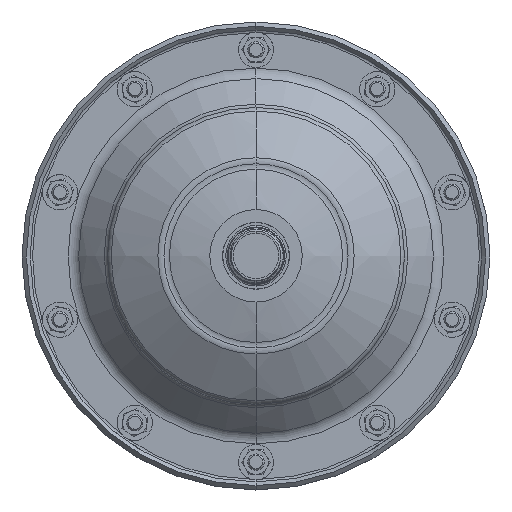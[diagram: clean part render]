
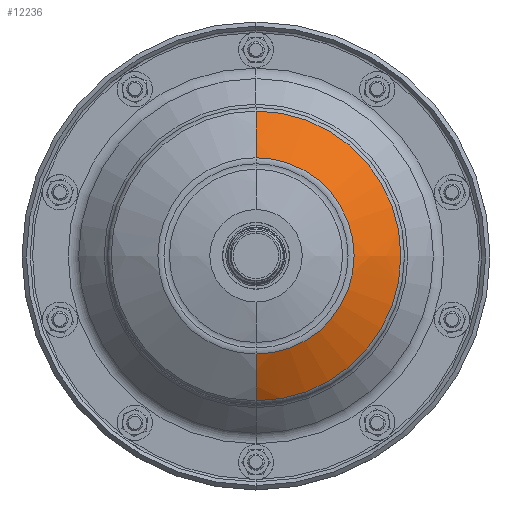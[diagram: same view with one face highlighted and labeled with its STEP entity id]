
A CAD part, top view. The second image highlights one B-rep face of the part: STEP entity #12236.
In plain terms, the highlighted free-form (B-spline) face has degree [3, 3] with [7, 4] control points.
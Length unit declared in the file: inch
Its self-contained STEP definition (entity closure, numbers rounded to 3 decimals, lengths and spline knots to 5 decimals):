
#2266 = DIRECTION ( 'NONE',  ( 0., 0., 1. ) ) ;
#2311 = DIRECTION ( 'NONE',  ( 0., 0., -1. ) ) ;
#2752 = CARTESIAN_POINT ( 'NONE',  ( 0., 3.33729, 1.04629 ) ) ;
#2872 = CARTESIAN_POINT ( 'NONE',  ( 0., -3.33729, 1.04629 ) ) ;
#3487 = CIRCLE ( 'NONE', #26022, 4.928 ) ;
#3890 = DIRECTION ( 'NONE',  ( 0., 0.595, 0.804 ) ) ;
#4192 = DIRECTION ( 'NONE',  ( 0., 1., 0. ) ) ;
#4372 = VERTEX_POINT ( 'NONE', #2872 ) ;
#4376 = CIRCLE ( 'NONE', #26391, 2.26117 ) ;
#4642 = CARTESIAN_POINT ( 'NONE',  ( 2.23822, 1.3774, 1.65928 ) ) ;
#4662 = EDGE_CURVE ( 'NONE', #10117, #4372, #24693, .T. ) ;
#4977 = CARTESIAN_POINT ( 'NONE',  ( 1.66115, 3.1231, 1.28901 ) ) ;
#5139 = CARTESIAN_POINT ( 'NONE',  ( 3.35715, -2.06598, 1.03153 ) ) ;
#7119 = CARTESIAN_POINT ( 'NONE',  ( 2.23822, 0., 1.65928 ) ) ;
#7270 = CARTESIAN_POINT ( 'NONE',  ( 3.35715, 2.06598, 1.03153 ) ) ;
#7445 = CARTESIAN_POINT ( 'NONE',  ( 1.66115, -3.1231, 1.28901 ) ) ;
#7601 =( BOUNDED_SURFACE ( )  B_SPLINE_SURFACE ( 3, 3, ( 
 ( #12386, #17801, #32241, #9734 ),
 ( #9572, #19790, #4977, #29777 ),
 ( #4642, #12543, #22568, #7270 ),
 ( #7119, #17160, #27147, #17320 ),
 ( #27304, #14851, #32560, #5139 ),
 ( #19940, #29930, #7445, #10055 ),
 ( #25174, #20105, #7606, #12699 ) ),
 .UNSPECIFIED., .F., .F., .T. ) 
 B_SPLINE_SURFACE_WITH_KNOTS ( ( 4, 3, 4 ),
 ( 4, 4 ),
 ( 0., 1., 2. ),
 ( 0., 1. ),
 .UNSPECIFIED. ) 
 GEOMETRIC_REPRESENTATION_ITEM ( )  RATIONAL_B_SPLINE_SURFACE ( (
 ( 1.192, 1.186, 1.186, 1.192),
 ( 0.942, 0.936, 0.936, 0.942),
 ( 0.942, 0.936, 0.936, 0.942),
 ( 1.192, 1.186, 1.186, 1.192),
 ( 0.942, 0.936, 0.936, 0.942),
 ( 0.942, 0.936, 0.936, 0.942),
 ( 1.192, 1.186, 1.186, 1.192) ) ) 
 REPRESENTATION_ITEM ( '' )  SURFACE ( )  );
#7606 = CARTESIAN_POINT ( 'NONE',  ( -0.18916, -3.00669, 1.28901 ) ) ;
#8239 = AXIS2_PLACEMENT_3D ( 'NONE', #27392, #24786, #17738 ) ;
#8405 = VERTEX_POINT ( 'NONE', #20156 ) ;
#9572 = CARTESIAN_POINT ( 'NONE',  ( 1.23414, 2.32029, 1.65928 ) ) ;
#9734 = CARTESIAN_POINT ( 'NONE',  ( -0.2108, 3.35052, 1.03153 ) ) ;
#9988 = EDGE_CURVE ( 'NONE', #8405, #9995, #4376, .T. ) ;
#9995 = VERTEX_POINT ( 'NONE', #14965 ) ;
#10055 = CARTESIAN_POINT ( 'NONE',  ( 1.85111, -3.48025, 1.03153 ) ) ;
#10117 = VERTEX_POINT ( 'NONE', #2752 ) ;
#10196 = ORIENTED_EDGE ( 'NONE', *, *, #18713, .F. ) ;
#11799 = EDGE_LOOP ( 'NONE', ( #10196, #30621, #28931, #22939 ) ) ;
#12236 = ADVANCED_FACE ( 'NONE', ( #30256 ), #7601, .T. ) ;
#12386 = CARTESIAN_POINT ( 'NONE',  ( -0.14054, 2.2338, 1.65928 ) ) ;
#12543 = CARTESIAN_POINT ( 'NONE',  ( 2.63753, 1.62313, 1.49946 ) ) ;
#12699 = CARTESIAN_POINT ( 'NONE',  ( -0.2108, -3.35052, 1.03153 ) ) ;
#14851 = CARTESIAN_POINT ( 'NONE',  ( 2.63753, -1.62313, 1.49946 ) ) ;
#14965 = CARTESIAN_POINT ( 'NONE',  ( 0., 2.26117, 1.65003 ) ) ;
#16722 = CARTESIAN_POINT ( 'NONE',  ( 0., 0.407, -2.91585 ) ) ;
#17158 = CIRCLE ( 'NONE', #8239, 4.928 ) ;
#17160 = CARTESIAN_POINT ( 'NONE',  ( 2.63753, 0., 1.49946 ) ) ;
#17320 = CARTESIAN_POINT ( 'NONE',  ( 3.35715, 0., 1.03153 ) ) ;
#17738 = DIRECTION ( 'NONE',  ( 0., -0.595, 0.804 ) ) ;
#17801 = CARTESIAN_POINT ( 'NONE',  ( -0.16561, 2.63232, 1.49946 ) ) ;
#18713 = EDGE_CURVE ( 'NONE', #4372, #8405, #17158, .T. ) ;
#18946 = EDGE_CURVE ( 'NONE', #10117, #9995, #3487, .T. ) ;
#19790 = CARTESIAN_POINT ( 'NONE',  ( 1.45432, 2.73424, 1.49946 ) ) ;
#19940 = CARTESIAN_POINT ( 'NONE',  ( 1.23414, -2.32029, 1.65928 ) ) ;
#20105 = CARTESIAN_POINT ( 'NONE',  ( -0.16561, -2.63232, 1.49946 ) ) ;
#20156 = CARTESIAN_POINT ( 'NONE',  ( 0., -2.26117, 1.65003 ) ) ;
#22198 = CARTESIAN_POINT ( 'NONE',  ( 0., 0., 1.65003 ) ) ;
#22568 = CARTESIAN_POINT ( 'NONE',  ( 3.01263, 1.85397, 1.28901 ) ) ;
#22627 = AXIS2_PLACEMENT_3D ( 'NONE', #29923, #2311, #4192 ) ;
#22939 = ORIENTED_EDGE ( 'NONE', *, *, #9988, .F. ) ;
#24693 = CIRCLE ( 'NONE', #22627, 3.33729 ) ;
#24786 = DIRECTION ( 'NONE',  ( -1., 0., 0. ) ) ;
#25174 = CARTESIAN_POINT ( 'NONE',  ( -0.14054, -2.2338, 1.65928 ) ) ;
#26022 = AXIS2_PLACEMENT_3D ( 'NONE', #16722, #26874, #3890 ) ;
#26391 = AXIS2_PLACEMENT_3D ( 'NONE', #22198, #2266, #31546 ) ;
#26874 = DIRECTION ( 'NONE',  ( 1., 0., 0. ) ) ;
#27147 = CARTESIAN_POINT ( 'NONE',  ( 3.01263, 0., 1.28901 ) ) ;
#27304 = CARTESIAN_POINT ( 'NONE',  ( 2.23822, -1.3774, 1.65928 ) ) ;
#27392 = CARTESIAN_POINT ( 'NONE',  ( 0., -0.407, -2.91585 ) ) ;
#28931 = ORIENTED_EDGE ( 'NONE', *, *, #18946, .T. ) ;
#29777 = CARTESIAN_POINT ( 'NONE',  ( 1.85111, 3.48025, 1.03153 ) ) ;
#29923 = CARTESIAN_POINT ( 'NONE',  ( 0., 0., 1.04629 ) ) ;
#29930 = CARTESIAN_POINT ( 'NONE',  ( 1.45432, -2.73424, 1.49946 ) ) ;
#30256 = FACE_OUTER_BOUND ( 'NONE', #11799, .T. ) ;
#30621 = ORIENTED_EDGE ( 'NONE', *, *, #4662, .F. ) ;
#31546 = DIRECTION ( 'NONE',  ( 0., -1., 0. ) ) ;
#32241 = CARTESIAN_POINT ( 'NONE',  ( -0.18916, 3.00669, 1.28901 ) ) ;
#32560 = CARTESIAN_POINT ( 'NONE',  ( 3.01263, -1.85397, 1.28901 ) ) ;
